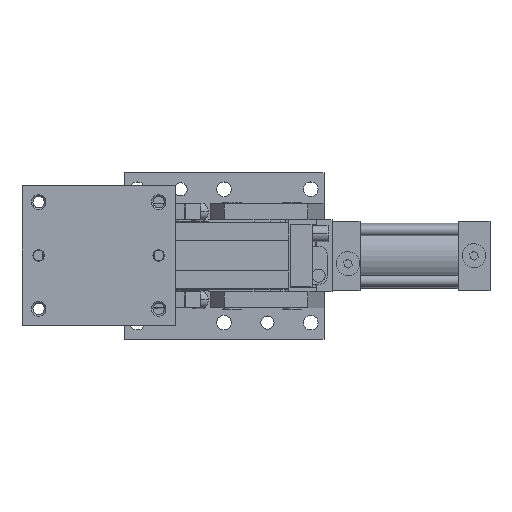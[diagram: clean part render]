
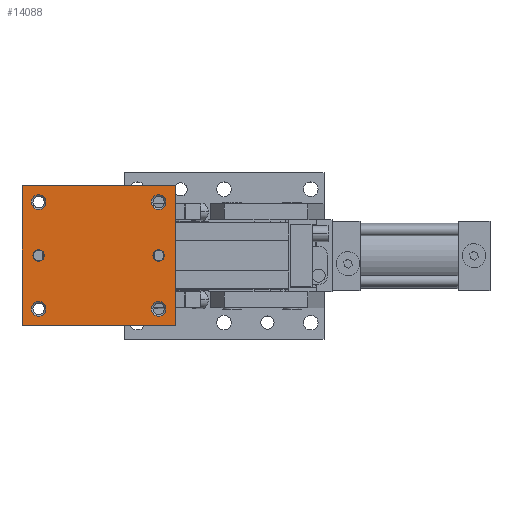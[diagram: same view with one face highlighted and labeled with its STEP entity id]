
A CAD part, top view. The second image highlights one B-rep face of the part: STEP entity #14088.
In plain terms, the highlighted planar face has unit normal (0, 0, 1).
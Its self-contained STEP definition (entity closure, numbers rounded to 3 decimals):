
#131 = AXIS2_PLACEMENT_3D ( 'NONE', #467, #5805, #11078 ) ;
#226 = ORIENTED_EDGE ( 'NONE', *, *, #8281, .F. ) ;
#293 = FACE_BOUND ( 'NONE', #10533, .T. ) ;
#374 = CIRCLE ( 'NONE', #10166, 4.25 ) ;
#406 = DIRECTION ( 'NONE',  ( 1., 0., 0. ) ) ;
#467 = CARTESIAN_POINT ( 'NONE',  ( 0., 0., 12. ) ) ;
#607 = DIRECTION ( 'NONE',  ( 1., 0., 0. ) ) ;
#733 = ORIENTED_EDGE ( 'NONE', *, *, #9014, .F. ) ;
#816 = DIRECTION ( 'NONE',  ( 0., 0., 1. ) ) ;
#851 = CIRCLE ( 'NONE', #1406, 5.5 ) ;
#898 = DIRECTION ( 'NONE',  ( -1., 0., 0. ) ) ;
#995 = CARTESIAN_POINT ( 'NONE',  ( -45.5, -45., 12. ) ) ;
#1085 = CARTESIAN_POINT ( 'NONE',  ( 0., 45., 12. ) ) ;
#1343 = VERTEX_POINT ( 'NONE', #8913 ) ;
#1344 = DIRECTION ( 'NONE',  ( 1., 0., 0. ) ) ;
#1352 = VERTEX_POINT ( 'NONE', #12786 ) ;
#1385 = ORIENTED_EDGE ( 'NONE', *, *, #9033, .F. ) ;
#1406 = AXIS2_PLACEMENT_3D ( 'NONE', #15212, #816, #14159 ) ;
#1433 = EDGE_CURVE ( 'NONE', #10110, #1343, #11839, .T. ) ;
#1547 = CIRCLE ( 'NONE', #13619, 4.25 ) ;
#1604 = CARTESIAN_POINT ( 'NONE',  ( 52.5, -57.5, 12. ) ) ;
#1674 = VERTEX_POINT ( 'NONE', #4288 ) ;
#1705 = CIRCLE ( 'NONE', #8995, 5.5 ) ;
#1890 = CARTESIAN_POINT ( 'NONE',  ( 52.5, 57.5, 12. ) ) ;
#2458 = VECTOR ( 'NONE', #10913, 1000. ) ;
#2486 = ORIENTED_EDGE ( 'NONE', *, *, #7088, .F. ) ;
#3043 = CIRCLE ( 'NONE', #12304, 5.5 ) ;
#3075 = FACE_BOUND ( 'NONE', #4426, .T. ) ;
#3080 = VERTEX_POINT ( 'NONE', #9122 ) ;
#3092 = DIRECTION ( 'NONE',  ( 0., 0., 1. ) ) ;
#3128 = CARTESIAN_POINT ( 'NONE',  ( 0., -45., 12. ) ) ;
#3159 = EDGE_CURVE ( 'NONE', #4304, #10597, #374, .T. ) ;
#3261 = CARTESIAN_POINT ( 'NONE',  ( 40., -45., 12. ) ) ;
#3281 = CARTESIAN_POINT ( 'NONE',  ( -40., 45., 12. ) ) ;
#3337 = FACE_BOUND ( 'NONE', #15511, .T. ) ;
#3444 = DIRECTION ( 'NONE',  ( 1., 0., 0. ) ) ;
#3680 = AXIS2_PLACEMENT_3D ( 'NONE', #12654, #12308, #16611 ) ;
#3809 = CIRCLE ( 'NONE', #11099, 4.25 ) ;
#3843 = DIRECTION ( 'NONE',  ( 0., 1., 0. ) ) ;
#4256 = CARTESIAN_POINT ( 'NONE',  ( 45.5, -45., 12. ) ) ;
#4288 = CARTESIAN_POINT ( 'NONE',  ( -52.5, -57.5, 12. ) ) ;
#4304 = VERTEX_POINT ( 'NONE', #12024 ) ;
#4426 = EDGE_LOOP ( 'NONE', ( #9682, #15122 ) ) ;
#4504 = LINE ( 'NONE', #1604, #2458 ) ;
#4512 = DIRECTION ( 'NONE',  ( 0., 0., 1. ) ) ;
#4601 = CARTESIAN_POINT ( 'NONE',  ( 40., -45., 12. ) ) ;
#4726 = ORIENTED_EDGE ( 'NONE', *, *, #3159, .F. ) ;
#4923 = VERTEX_POINT ( 'NONE', #16010 ) ;
#4983 = CIRCLE ( 'NONE', #14538, 5.5 ) ;
#5033 = VERTEX_POINT ( 'NONE', #10645 ) ;
#5169 = ORIENTED_EDGE ( 'NONE', *, *, #12872, .F. ) ;
#5234 = DIRECTION ( 'NONE',  ( 0., -1., 0. ) ) ;
#5532 = AXIS2_PLACEMENT_3D ( 'NONE', #3128, #9809, #607 ) ;
#5805 = DIRECTION ( 'NONE',  ( 0., 0., -1. ) ) ;
#5818 = CARTESIAN_POINT ( 'NONE',  ( -45.5, 45., 12. ) ) ;
#5836 = AXIS2_PLACEMENT_3D ( 'NONE', #4601, #4512, #11351 ) ;
#5845 = CIRCLE ( 'NONE', #5836, 5.5 ) ;
#5852 = DIRECTION ( 'NONE',  ( 1., 0., 0. ) ) ;
#5858 = AXIS2_PLACEMENT_3D ( 'NONE', #3281, #16574, #5852 ) ;
#6212 = EDGE_CURVE ( 'NONE', #12398, #13002, #9136, .T. ) ;
#6388 = ORIENTED_EDGE ( 'NONE', *, *, #17240, .T. ) ;
#6515 = AXIS2_PLACEMENT_3D ( 'NONE', #16630, #3092, #3444 ) ;
#6572 = EDGE_CURVE ( 'NONE', #13002, #1674, #17089, .T. ) ;
#6606 = VECTOR ( 'NONE', #3843, 1000. ) ;
#7088 = EDGE_CURVE ( 'NONE', #11195, #4923, #3043, .T. ) ;
#7135 = FACE_OUTER_BOUND ( 'NONE', #11991, .T. ) ;
#7559 = CARTESIAN_POINT ( 'NONE',  ( -52.5, 57.5, 12. ) ) ;
#8281 = EDGE_CURVE ( 'NONE', #4923, #11195, #851, .T. ) ;
#8366 = EDGE_LOOP ( 'NONE', ( #2486, #226 ) ) ;
#8398 = CIRCLE ( 'NONE', #5858, 5.5 ) ;
#8639 = DIRECTION ( 'NONE',  ( 0., 0., 1. ) ) ;
#8716 = DIRECTION ( 'NONE',  ( 1., 0., 0. ) ) ;
#8913 = CARTESIAN_POINT ( 'NONE',  ( -34.5, -45., 12. ) ) ;
#8995 = AXIS2_PLACEMENT_3D ( 'NONE', #15645, #10374, #9059 ) ;
#9014 = EDGE_CURVE ( 'NONE', #3080, #9866, #5845, .T. ) ;
#9033 = EDGE_CURVE ( 'NONE', #9866, #3080, #4983, .T. ) ;
#9059 = DIRECTION ( 'NONE',  ( 1., 0., 0. ) ) ;
#9122 = CARTESIAN_POINT ( 'NONE',  ( 34.5, -45., 12. ) ) ;
#9136 = LINE ( 'NONE', #7559, #11812 ) ;
#9197 = ORIENTED_EDGE ( 'NONE', *, *, #16445, .F. ) ;
#9270 = VERTEX_POINT ( 'NONE', #16351 ) ;
#9289 = CARTESIAN_POINT ( 'NONE',  ( -34.5, 45., 12. ) ) ;
#9336 = DIRECTION ( 'NONE',  ( 0., 0., 1. ) ) ;
#9532 = CARTESIAN_POINT ( 'NONE',  ( 0., -45., 12. ) ) ;
#9682 = ORIENTED_EDGE ( 'NONE', *, *, #15203, .F. ) ;
#9775 = EDGE_LOOP ( 'NONE', ( #10275, #5169 ) ) ;
#9809 = DIRECTION ( 'NONE',  ( 0., 0., 1. ) ) ;
#9866 = VERTEX_POINT ( 'NONE', #4256 ) ;
#10110 = VERTEX_POINT ( 'NONE', #995 ) ;
#10166 = AXIS2_PLACEMENT_3D ( 'NONE', #9532, #10934, #16303 ) ;
#10229 = CARTESIAN_POINT ( 'NONE',  ( 45.5, 45., 12. ) ) ;
#10275 = ORIENTED_EDGE ( 'NONE', *, *, #11089, .F. ) ;
#10374 = DIRECTION ( 'NONE',  ( 0., 0., 1. ) ) ;
#10418 = CIRCLE ( 'NONE', #3680, 5.5 ) ;
#10533 = EDGE_LOOP ( 'NONE', ( #9197, #4726 ) ) ;
#10597 = VERTEX_POINT ( 'NONE', #10707 ) ;
#10645 = CARTESIAN_POINT ( 'NONE',  ( 4.25, 45., 12. ) ) ;
#10707 = CARTESIAN_POINT ( 'NONE',  ( 4.25, -45., 12. ) ) ;
#10771 = CARTESIAN_POINT ( 'NONE',  ( 52.5, 57.5, 12. ) ) ;
#10850 = ORIENTED_EDGE ( 'NONE', *, *, #6572, .T. ) ;
#10913 = DIRECTION ( 'NONE',  ( 1., 0., 0. ) ) ;
#10934 = DIRECTION ( 'NONE',  ( 0., 0., 1. ) ) ;
#11078 = DIRECTION ( 'NONE',  ( -1., 0., 0. ) ) ;
#11089 = EDGE_CURVE ( 'NONE', #12116, #17339, #8398, .T. ) ;
#11099 = AXIS2_PLACEMENT_3D ( 'NONE', #1085, #9336, #1344 ) ;
#11195 = VERTEX_POINT ( 'NONE', #10229 ) ;
#11307 = ORIENTED_EDGE ( 'NONE', *, *, #1433, .F. ) ;
#11351 = DIRECTION ( 'NONE',  ( 1., 0., 0. ) ) ;
#11710 = CIRCLE ( 'NONE', #5532, 4.25 ) ;
#11730 = CARTESIAN_POINT ( 'NONE',  ( -52.5, 57.5, 12. ) ) ;
#11812 = VECTOR ( 'NONE', #898, 1000. ) ;
#11839 = CIRCLE ( 'NONE', #6515, 5.5 ) ;
#11991 = EDGE_LOOP ( 'NONE', ( #13593, #10850, #6388, #12334 ) ) ;
#12024 = CARTESIAN_POINT ( 'NONE',  ( -4.25, -45., 12. ) ) ;
#12116 = VERTEX_POINT ( 'NONE', #9289 ) ;
#12304 = AXIS2_PLACEMENT_3D ( 'NONE', #16622, #15379, #8716 ) ;
#12308 = DIRECTION ( 'NONE',  ( 0., 0., 1. ) ) ;
#12312 = FACE_BOUND ( 'NONE', #9775, .T. ) ;
#12334 = ORIENTED_EDGE ( 'NONE', *, *, #14583, .T. ) ;
#12398 = VERTEX_POINT ( 'NONE', #1890 ) ;
#12425 = CARTESIAN_POINT ( 'NONE',  ( 0., 45., 12. ) ) ;
#12484 = FACE_BOUND ( 'NONE', #14793, .T. ) ;
#12649 = EDGE_CURVE ( 'NONE', #1343, #10110, #1705, .T. ) ;
#12654 = CARTESIAN_POINT ( 'NONE',  ( -40., 45., 12. ) ) ;
#12786 = CARTESIAN_POINT ( 'NONE',  ( 52.5, -57.5, 12. ) ) ;
#12872 = EDGE_CURVE ( 'NONE', #17339, #12116, #10418, .T. ) ;
#13002 = VERTEX_POINT ( 'NONE', #14224 ) ;
#13593 = ORIENTED_EDGE ( 'NONE', *, *, #6212, .T. ) ;
#13619 = AXIS2_PLACEMENT_3D ( 'NONE', #12425, #14798, #406 ) ;
#13892 = PLANE ( 'NONE',  #131 ) ;
#13992 = DIRECTION ( 'NONE',  ( 1., 0., 0. ) ) ;
#14088 = ADVANCED_FACE ( 'NONE', ( #7135, #15372, #12484, #3337, #12312, #293, #3075 ), #13892, .F. ) ;
#14159 = DIRECTION ( 'NONE',  ( 1., 0., 0. ) ) ;
#14224 = CARTESIAN_POINT ( 'NONE',  ( -52.5, 57.5, 12. ) ) ;
#14538 = AXIS2_PLACEMENT_3D ( 'NONE', #3261, #8639, #13992 ) ;
#14561 = LINE ( 'NONE', #10771, #6606 ) ;
#14583 = EDGE_CURVE ( 'NONE', #1352, #12398, #14561, .T. ) ;
#14793 = EDGE_LOOP ( 'NONE', ( #1385, #733 ) ) ;
#14798 = DIRECTION ( 'NONE',  ( 0., 0., 1. ) ) ;
#15122 = ORIENTED_EDGE ( 'NONE', *, *, #15419, .F. ) ;
#15203 = EDGE_CURVE ( 'NONE', #5033, #9270, #1547, .T. ) ;
#15209 = ORIENTED_EDGE ( 'NONE', *, *, #12649, .F. ) ;
#15212 = CARTESIAN_POINT ( 'NONE',  ( 40., 45., 12. ) ) ;
#15372 = FACE_BOUND ( 'NONE', #8366, .T. ) ;
#15379 = DIRECTION ( 'NONE',  ( 0., 0., 1. ) ) ;
#15419 = EDGE_CURVE ( 'NONE', #9270, #5033, #3809, .T. ) ;
#15511 = EDGE_LOOP ( 'NONE', ( #15209, #11307 ) ) ;
#15645 = CARTESIAN_POINT ( 'NONE',  ( -40., -45., 12. ) ) ;
#16010 = CARTESIAN_POINT ( 'NONE',  ( 34.5, 45., 12. ) ) ;
#16298 = VECTOR ( 'NONE', #5234, 1000. ) ;
#16303 = DIRECTION ( 'NONE',  ( 1., 0., 0. ) ) ;
#16351 = CARTESIAN_POINT ( 'NONE',  ( -4.25, 45., 12. ) ) ;
#16445 = EDGE_CURVE ( 'NONE', #10597, #4304, #11710, .T. ) ;
#16574 = DIRECTION ( 'NONE',  ( 0., 0., 1. ) ) ;
#16611 = DIRECTION ( 'NONE',  ( 1., 0., 0. ) ) ;
#16622 = CARTESIAN_POINT ( 'NONE',  ( 40., 45., 12. ) ) ;
#16630 = CARTESIAN_POINT ( 'NONE',  ( -40., -45., 12. ) ) ;
#17089 = LINE ( 'NONE', #11730, #16298 ) ;
#17240 = EDGE_CURVE ( 'NONE', #1674, #1352, #4504, .T. ) ;
#17339 = VERTEX_POINT ( 'NONE', #5818 ) ;
